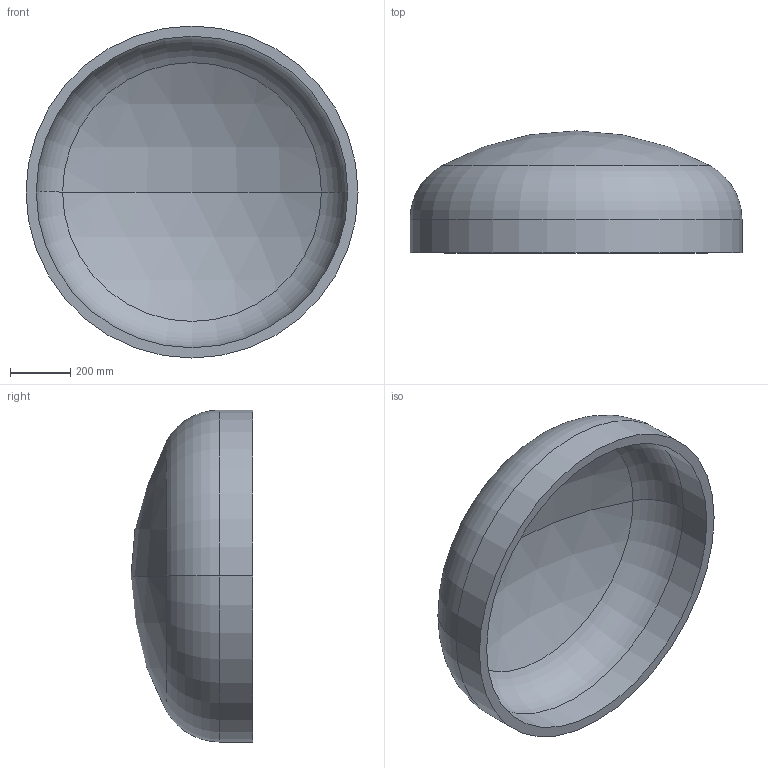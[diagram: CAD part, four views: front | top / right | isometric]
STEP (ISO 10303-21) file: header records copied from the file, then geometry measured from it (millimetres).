
FILE_DESCRIPTION (( 'STEP AP203' ), '1' );
FILE_NAME ('DIN 28013 Korbbogenform_-_Boden DIN 28013 - 1100 x 110 - I - s=34.step', '2016-07-01T09:06:15', ( '' ), ( '' ), 'SwSTEP 2.0', 'SolidWorks 2013', '' );
FILE_SCHEMA (( 'CONFIG_CONTROL_DESIGN' ));
Length unit declared in the file: millimetre
Products named in the file (1): DIN 28013 Korbbogenform_-_Boden DIN 28013 - 1100 x 110 - I - s=34
Bounding box: 1100 x 404.01 x 1100 mm (x, y, z)
Volume: 55536547.3 mm3; surface area: 3383139.9 mm2
Topology: 1 solids, 1 shells, 13 faces, 24 edges, 14 vertices
Faces by surface type: torus 4, cylinder 4, sphere 4, plane 1
Entity records: 407 total; most frequent: DIRECTION 72, CARTESIAN_POINT 52, ORIENTED_EDGE 48, AXIS2_PLACEMENT_3D 34, EDGE_CURVE 24, CIRCLE 20, VERTEX_POINT 14, EDGE_LOOP 14
